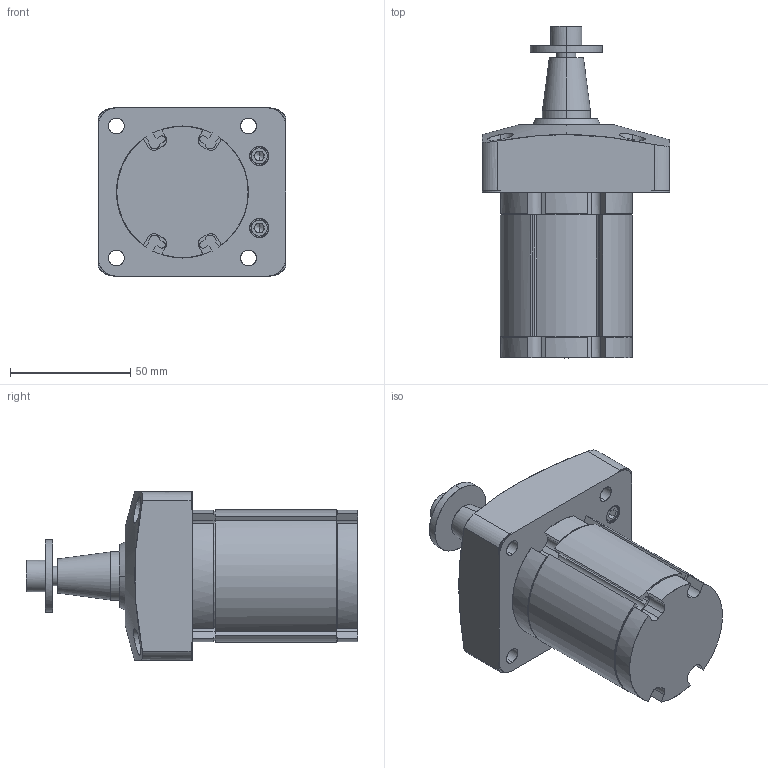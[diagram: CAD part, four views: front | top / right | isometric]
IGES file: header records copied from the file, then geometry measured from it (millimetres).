
Start section: Comment
Global section: file name: jsm32-17.igs; native system:  By Spatial Corp.; preprocessor: XPlus GENERIC/IGES 3.0; author: Author; organization: Title; date: 20080526.115518; units: millimetre
Bounding box: 78 x 138.2 x 70 mm (x, y, z)
Surface area: 61819.2 mm2 (no closed solid volume)
Topology: 0 solids, 0 shells, 340 faces, 1682 edges, 1668 vertices
Faces by surface type: bspline 340
